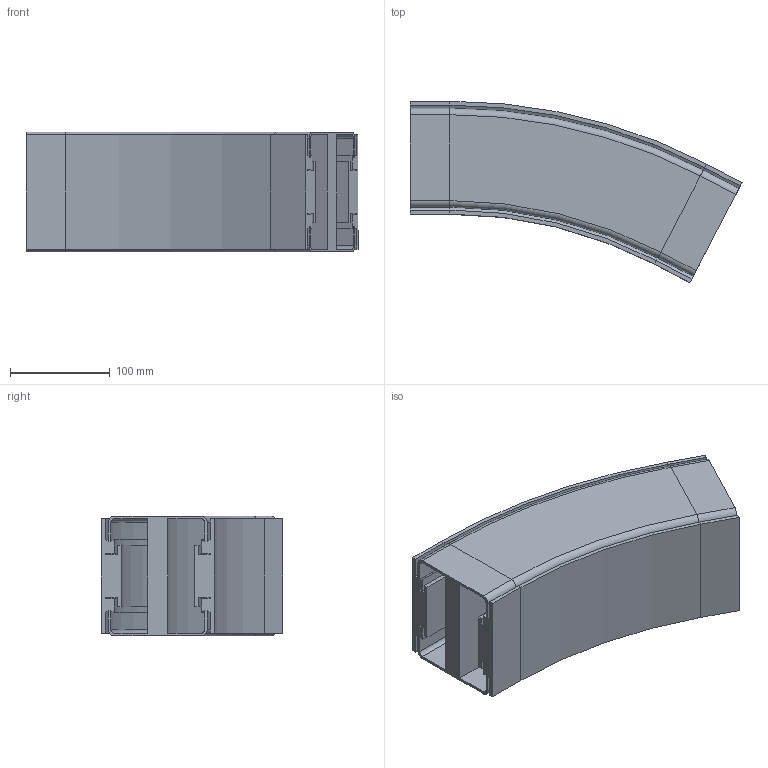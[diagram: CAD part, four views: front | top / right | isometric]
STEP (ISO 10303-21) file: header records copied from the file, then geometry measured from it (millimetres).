
FILE_DESCRIPTION (( 'STEP AP214' ), '1' );
FILE_NAME ('VC.120 Verticale bochtsectie.R500 27,5.STEP', '2017-02-08T08:10:16', ( '' ), ( '' ), 'SwSTEP 2.0', 'SolidWorks 2016', '' );
FILE_SCHEMA (( 'AUTOMOTIVE_DESIGN' ));
Length unit declared in the file: millimetre
Products named in the file (1): VC.120 Verticale bochtsectie.R500 27,5
Bounding box: 332.44 x 181.58 x 120 mm (x, y, z)
Volume: 1886660.1 mm3; surface area: 467993.9 mm2
Topology: 1 solids, 1 shells, 206 faces, 476 edges, 272 vertices
Faces by surface type: plane 144, cylinder 46, cone 8, torus 8
Entity records: 5674 total; most frequent: DIRECTION 990, CARTESIAN_POINT 955, ORIENTED_EDGE 952, EDGE_CURVE 476, LINE 376, VECTOR 376, AXIS2_PLACEMENT_3D 307, VERTEX_POINT 272
